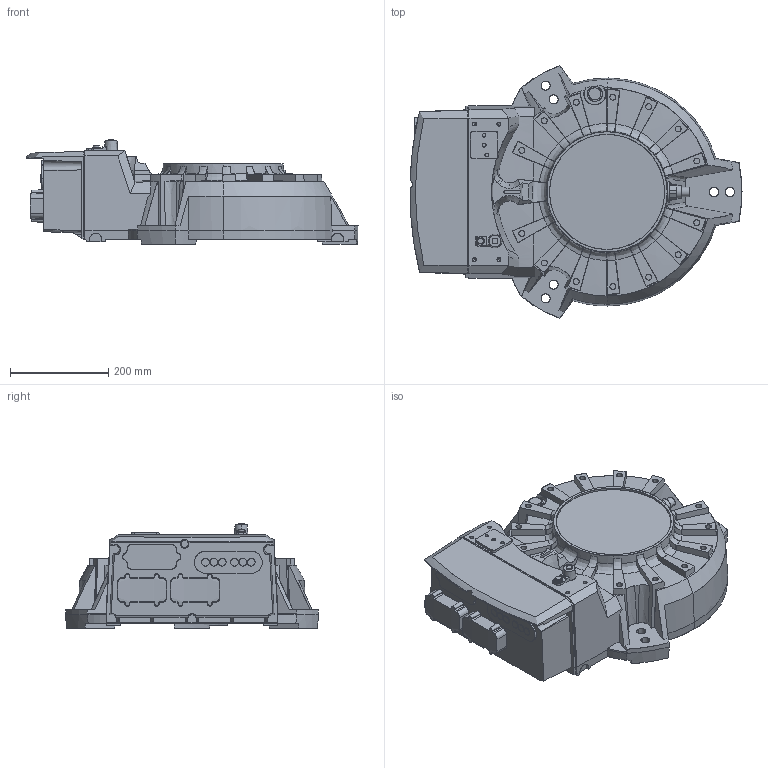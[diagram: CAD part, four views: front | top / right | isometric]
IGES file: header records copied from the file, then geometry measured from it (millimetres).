
Start section: SolidWorks IGES file using analytic representation for surfaces
Global section: file name: C:\Users\SELUHAA\Downloads\IRB4600_45kg-205_IRC5_rev04_IGES_j\IRB4600_45kg-205_BASE_CAD_rev05.IGS; native system: SolidWorks 2022; preprocessor: SolidWorks 2022; author: SELUHAA; date: 240517.110323; units: millimetre
Bounding box: 675.45 x 514.54 x 213 mm (x, y, z)
Surface area: 904211.5 mm2 (no closed solid volume)
Topology: 0 solids, 0 shells, 665 faces, 9433 edges, 9425 vertices
Faces by surface type: bspline 350, revolution 315
